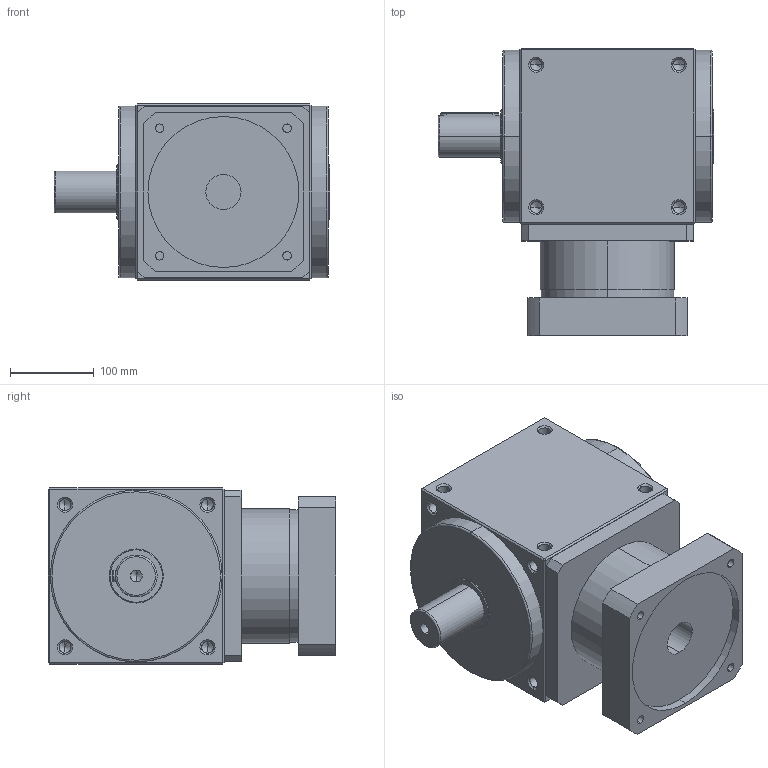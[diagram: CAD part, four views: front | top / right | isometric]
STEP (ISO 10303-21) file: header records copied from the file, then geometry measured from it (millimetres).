
FILE_DESCRIPTION (( 'STEP AP214' ), '1' );
FILE_NAME ('AT210-FL-001 42-180-215-M12.STEP', '2020-11-20T06:47:47', ( '微软用户' ), ( '微软中国' ), 'SwSTEP 2.0', 'SolidWorks 2014', '' );
FILE_SCHEMA (( 'AUTOMOTIVE_DESIGN' ));
Length unit declared in the file: millimetre
Products named in the file (2): AT210-FL-001 42-180-215-M12
Bounding box: 329 x 343 x 210 mm (x, y, z)
Volume: 14034435.8 mm3; surface area: 543481.8 mm2
Topology: 2 solids, 2 shells, 271 faces, 673 edges, 377 vertices
Faces by surface type: cylinder 116, cone 89, plane 60, torus 6
Entity records: 10768 total; most frequent: CARTESIAN_POINT 1707, DIRECTION 1281, ORIENTED_EDGE 1262, EDGE_CURVE 631, AXIS2_PLACEMENT_3D 491, VERTEX_POINT 377, EDGE_LOOP 308, LINE 299
